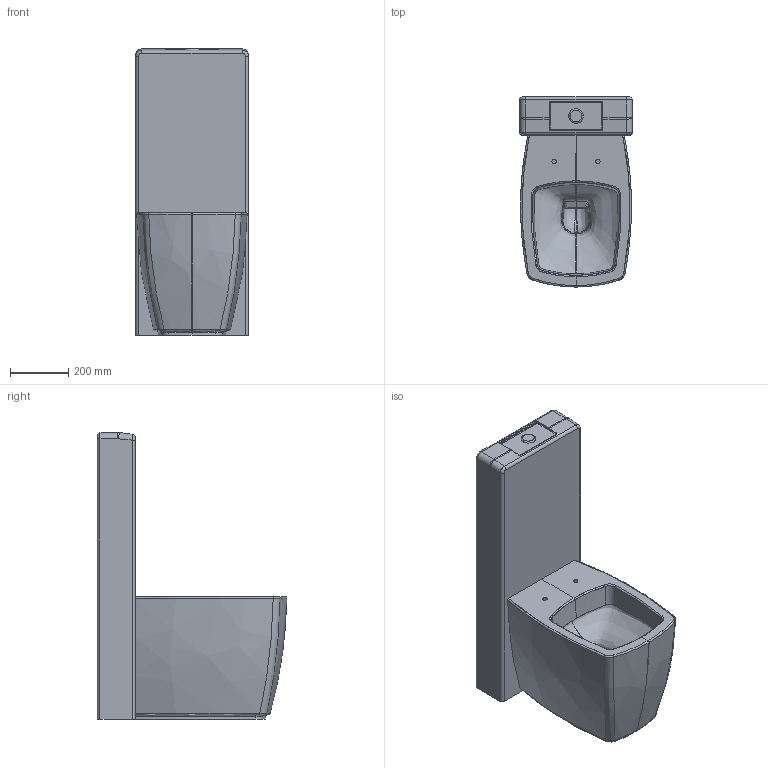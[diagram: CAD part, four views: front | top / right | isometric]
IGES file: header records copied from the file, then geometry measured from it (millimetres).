
Start section: START RECORD GO HERE.
Global section: file name: 8972_3D.igs; native system: DASSAULT SYSTEMES CATIA V5 R19 - www.3ds.com; preprocessor: CATIA Version 5 Release 19 SP 5 ; author: gioge; organization: LAPTOP-G94B6G74; date: 20201128.165314; units: millimetre
Bounding box: 385 x 649.89 x 981 mm (x, y, z)
Surface area: 2084472.3 mm2 (no closed solid volume)
Topology: 0 solids, 0 shells, 163 faces, 772 edges, 770 vertices
Faces by surface type: bspline 78, revolution 54, plane 27, extrusion 4
